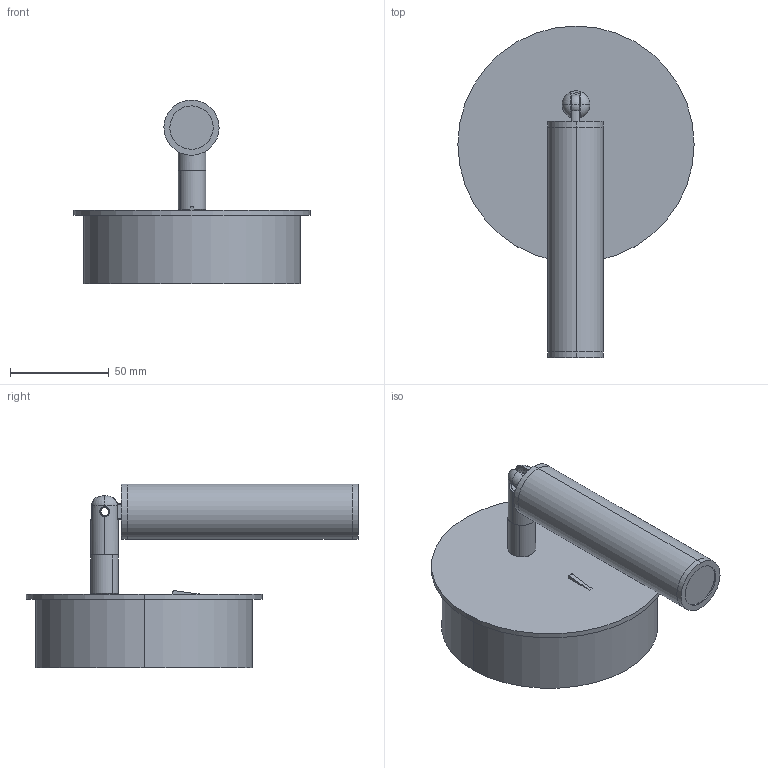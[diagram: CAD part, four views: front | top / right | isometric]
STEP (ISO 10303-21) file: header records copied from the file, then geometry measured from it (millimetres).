
FILE_DESCRIPTION (( 'STEP AP214' ), '1' );
FILE_NAME ('AU1342_COCO.STEP', '2026-06-05T07:26:36', ( '' ), ( '' ), 'SwSTEP 2.0', 'SolidWorks 2023', '' );
FILE_SCHEMA (( 'AUTOMOTIVE_DESIGN' ));
Length unit declared in the file: inch
Products named in the file (1): AU1342_COCO
Bounding box: 119.89 x 168.44 x 93.33 mm (x, y, z)
Volume: 438013.4 mm3; surface area: 72974.8 mm2
Topology: 9 solids, 9 shells, 86 faces, 192 edges, 124 vertices
Faces by surface type: cylinder 44, plane 29, torus 8, sphere 3, cone 2
Entity records: 2946 total; most frequent: CARTESIAN_POINT 852, DIRECTION 439, ORIENTED_EDGE 378, EDGE_CURVE 189, AXIS2_PLACEMENT_3D 183, VERTEX_POINT 122, EDGE_LOOP 99, CIRCLE 96
